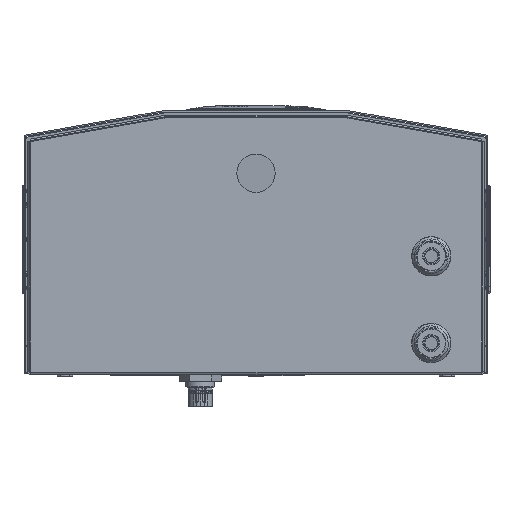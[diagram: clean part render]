
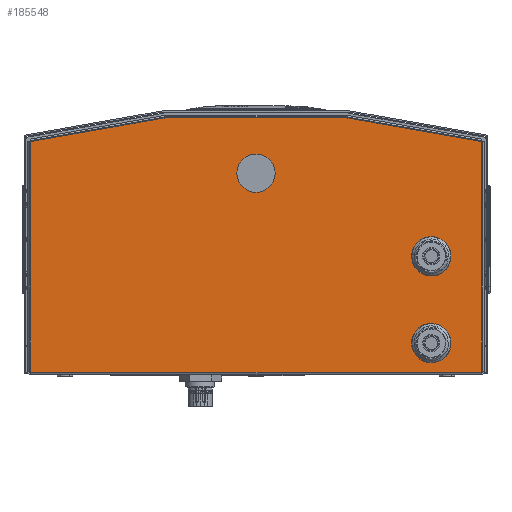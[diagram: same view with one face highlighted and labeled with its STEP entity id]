
A CAD part, front view. The second image highlights one B-rep face of the part: STEP entity #185548.
In plain terms, the highlighted planar face has unit normal (0, -1, 0).
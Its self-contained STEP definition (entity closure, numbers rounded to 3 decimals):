
#279 = CARTESIAN_POINT ( 'NONE',  ( 151.45, -653.922, 13.087 ) ) ;
#1464 = CARTESIAN_POINT ( 'NONE',  ( 151.45, -653.922, 25.787 ) ) ;
#2141 = DIRECTION ( 'NONE',  ( 0., 0., 1. ) ) ;
#3051 = CARTESIAN_POINT ( 'NONE',  ( 194.79, -653.922, 199.882 ) ) ;
#7661 = ORIENTED_EDGE ( 'NONE', *, *, #45389, .F. ) ;
#8567 = ORIENTED_EDGE ( 'NONE', *, *, #179832, .T. ) ;
#9712 = DIRECTION ( 'NONE',  ( 0., 0., -1. ) ) ;
#9867 = DIRECTION ( 'NONE',  ( 0., -1., 0. ) ) ;
#9898 = CARTESIAN_POINT ( 'NONE',  ( 151.45, -653.922, 100.787 ) ) ;
#12887 = DIRECTION ( 'NONE',  ( 0., 1., 0. ) ) ;
#14194 = LINE ( 'NONE', #121348, #181605 ) ;
#15318 = VECTOR ( 'NONE', #62364, 1000. ) ;
#16745 = VERTEX_POINT ( 'NONE', #40615 ) ;
#17264 = ORIENTED_EDGE ( 'NONE', *, *, #146764, .F. ) ;
#17339 = DIRECTION ( 'NONE',  ( 0., 0., -1. ) ) ;
#22005 = VERTEX_POINT ( 'NONE', #75074 ) ;
#23466 = AXIS2_PLACEMENT_3D ( 'NONE', #152692, #152166, #152009 ) ;
#26661 = AXIS2_PLACEMENT_3D ( 'NONE', #1464, #111500, #17339 ) ;
#35304 = FACE_OUTER_BOUND ( 'NONE', #111040, .T. ) ;
#36864 = VERTEX_POINT ( 'NONE', #137552 ) ;
#40615 = CARTESIAN_POINT ( 'NONE',  ( -194.79, -653.922, 199.882 ) ) ;
#41007 = ORIENTED_EDGE ( 'NONE', *, *, #92755, .T. ) ;
#45389 = EDGE_CURVE ( 'NONE', #203017, #175071, #170127, .T. ) ;
#45870 = ORIENTED_EDGE ( 'NONE', *, *, #197622, .T. ) ;
#46606 = ORIENTED_EDGE ( 'NONE', *, *, #104038, .F. ) ;
#51082 = DIRECTION ( 'NONE',  ( -0.985, 0., -0.174 ) ) ;
#53835 = CARTESIAN_POINT ( 'NONE',  ( -78.607, -653.922, 220.368 ) ) ;
#55777 = DIRECTION ( 'NONE',  ( 0., -1., 0. ) ) ;
#56528 = AXIS2_PLACEMENT_3D ( 'NONE', #105966, #105721, #105523 ) ;
#56994 = VECTOR ( 'NONE', #82341, 1000. ) ;
#57278 = LINE ( 'NONE', #64684, #15318 ) ;
#58859 = LINE ( 'NONE', #72850, #137405 ) ;
#62364 = DIRECTION ( 'NONE',  ( 0., 0., -1. ) ) ;
#64684 = CARTESIAN_POINT ( 'NONE',  ( -194.79, -653.922, 199.89 ) ) ;
#72233 = FACE_BOUND ( 'NONE', #81184, .T. ) ;
#72850 = CARTESIAN_POINT ( 'NONE',  ( 194.798, -653.922, 199.88 ) ) ;
#74716 = EDGE_CURVE ( 'NONE', #36864, #16745, #78871, .T. ) ;
#75074 = CARTESIAN_POINT ( 'NONE',  ( 0., -653.922, 189.088 ) ) ;
#76177 = CARTESIAN_POINT ( 'NONE',  ( 0., -653.922, 172.578 ) ) ;
#78035 = VERTEX_POINT ( 'NONE', #279 ) ;
#78871 = LINE ( 'NONE', #53835, #199461 ) ;
#80039 = EDGE_CURVE ( 'NONE', #96997, #121256, #182464, .T. ) ;
#80421 = CARTESIAN_POINT ( 'NONE',  ( 78.607, -653.922, 220.368 ) ) ;
#81184 = EDGE_LOOP ( 'NONE', ( #7661, #46606 ) ) ;
#82341 = DIRECTION ( 'NONE',  ( -1., 0., 0. ) ) ;
#83033 = CARTESIAN_POINT ( 'NONE',  ( -197., -653.922, 0.787 ) ) ;
#88634 = DIRECTION ( 'NONE',  ( -0.985, 0., 0.174 ) ) ;
#89073 = EDGE_LOOP ( 'NONE', ( #109980, #149579 ) ) ;
#90732 = ORIENTED_EDGE ( 'NONE', *, *, #74716, .T. ) ;
#91345 = PLANE ( 'NONE',  #105644 ) ;
#91976 = DIRECTION ( 'NONE',  ( 0., 0., 1. ) ) ;
#92459 = VERTEX_POINT ( 'NONE', #100991 ) ;
#92755 = EDGE_CURVE ( 'NONE', #16745, #121256, #57278, .T. ) ;
#96997 = VERTEX_POINT ( 'NONE', #125971 ) ;
#97375 = EDGE_CURVE ( 'NONE', #190265, #22005, #161264, .T. ) ;
#99039 = CARTESIAN_POINT ( 'NONE',  ( 0., -653.922, 156.068 ) ) ;
#100991 = CARTESIAN_POINT ( 'NONE',  ( 151.45, -653.922, 38.487 ) ) ;
#104038 = EDGE_CURVE ( 'NONE', #175071, #203017, #150459, .T. ) ;
#105523 = DIRECTION ( 'NONE',  ( 0., 0., 1. ) ) ;
#105644 = AXIS2_PLACEMENT_3D ( 'NONE', #201381, #12887, #122843 ) ;
#105721 = DIRECTION ( 'NONE',  ( 0., 1., 0. ) ) ;
#105966 = CARTESIAN_POINT ( 'NONE',  ( 0., -653.922, 172.578 ) ) ;
#109980 = ORIENTED_EDGE ( 'NONE', *, *, #160116, .T. ) ;
#111040 = EDGE_LOOP ( 'NONE', ( #8567, #139632, #45870, #90732, #41007, #126139 ) ) ;
#111500 = DIRECTION ( 'NONE',  ( 0., -1., 0. ) ) ;
#118867 = FACE_BOUND ( 'NONE', #89073, .T. ) ;
#121256 = VERTEX_POINT ( 'NONE', #141588 ) ;
#121348 = CARTESIAN_POINT ( 'NONE',  ( 78.607, -653.922, 220.368 ) ) ;
#122843 = DIRECTION ( 'NONE',  ( 0., 0., 1. ) ) ;
#123886 = EDGE_CURVE ( 'NONE', #174826, #131140, #58859, .T. ) ;
#125971 = CARTESIAN_POINT ( 'NONE',  ( 194.79, -653.922, 0.787 ) ) ;
#126139 = ORIENTED_EDGE ( 'NONE', *, *, #80039, .F. ) ;
#131140 = VERTEX_POINT ( 'NONE', #80421 ) ;
#136983 = CIRCLE ( 'NONE', #203696, 12.7 ) ;
#137405 = VECTOR ( 'NONE', #88634, 1000. ) ;
#137552 = CARTESIAN_POINT ( 'NONE',  ( -78.607, -653.922, 220.368 ) ) ;
#137835 = EDGE_CURVE ( 'NONE', #92459, #78035, #167998, .T. ) ;
#139632 = ORIENTED_EDGE ( 'NONE', *, *, #123886, .T. ) ;
#141588 = CARTESIAN_POINT ( 'NONE',  ( -194.79, -653.922, 0.787 ) ) ;
#142052 = VECTOR ( 'NONE', #2141, 1000. ) ;
#146434 = AXIS2_PLACEMENT_3D ( 'NONE', #9898, #9867, #9712 ) ;
#146764 = EDGE_CURVE ( 'NONE', #78035, #92459, #136983, .T. ) ;
#149579 = ORIENTED_EDGE ( 'NONE', *, *, #97375, .T. ) ;
#149873 = CARTESIAN_POINT ( 'NONE',  ( 151.45, -653.922, 25.787 ) ) ;
#150130 = CARTESIAN_POINT ( 'NONE',  ( 151.45, -653.922, 113.487 ) ) ;
#150459 = CIRCLE ( 'NONE', #146434, 12.7 ) ;
#152009 = DIRECTION ( 'NONE',  ( 0., 0., -1. ) ) ;
#152166 = DIRECTION ( 'NONE',  ( 0., -1., 0. ) ) ;
#152692 = CARTESIAN_POINT ( 'NONE',  ( 151.45, -653.922, 100.787 ) ) ;
#155742 = FACE_BOUND ( 'NONE', #204310, .T. ) ;
#160116 = EDGE_CURVE ( 'NONE', #22005, #190265, #161177, .T. ) ;
#161177 = CIRCLE ( 'NONE', #197986, 16.51 ) ;
#161264 = CIRCLE ( 'NONE', #56528, 16.51 ) ;
#165693 = DIRECTION ( 'NONE',  ( 0., 0., -1. ) ) ;
#167998 = CIRCLE ( 'NONE', #26661, 12.7 ) ;
#170127 = CIRCLE ( 'NONE', #23466, 12.7 ) ;
#174826 = VERTEX_POINT ( 'NONE', #3051 ) ;
#175071 = VERTEX_POINT ( 'NONE', #150130 ) ;
#176502 = ORIENTED_EDGE ( 'NONE', *, *, #137835, .F. ) ;
#179832 = EDGE_CURVE ( 'NONE', #96997, #174826, #188956, .T. ) ;
#181605 = VECTOR ( 'NONE', #184043, 1000. ) ;
#182464 = LINE ( 'NONE', #83033, #56994 ) ;
#184043 = DIRECTION ( 'NONE',  ( -1., 0., 0. ) ) ;
#185548 = ADVANCED_FACE ( 'NONE', ( #118867, #72233, #155742, #35304 ), #91345, .F. ) ;
#186205 = DIRECTION ( 'NONE',  ( 0., 1., 0. ) ) ;
#188956 = LINE ( 'NONE', #190665, #142052 ) ;
#190265 = VERTEX_POINT ( 'NONE', #99039 ) ;
#190665 = CARTESIAN_POINT ( 'NONE',  ( 194.79, -653.922, 0.787 ) ) ;
#195696 = CARTESIAN_POINT ( 'NONE',  ( 151.45, -653.922, 88.087 ) ) ;
#197622 = EDGE_CURVE ( 'NONE', #131140, #36864, #14194, .T. ) ;
#197986 = AXIS2_PLACEMENT_3D ( 'NONE', #76177, #186205, #91976 ) ;
#199461 = VECTOR ( 'NONE', #51082, 1000. ) ;
#201381 = CARTESIAN_POINT ( 'NONE',  ( -197., -653.922, 222.578 ) ) ;
#203017 = VERTEX_POINT ( 'NONE', #195696 ) ;
#203696 = AXIS2_PLACEMENT_3D ( 'NONE', #149873, #55777, #165693 ) ;
#204310 = EDGE_LOOP ( 'NONE', ( #17264, #176502 ) ) ;
